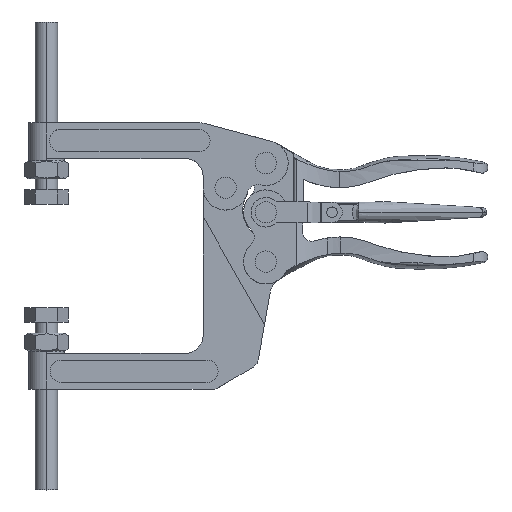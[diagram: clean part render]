
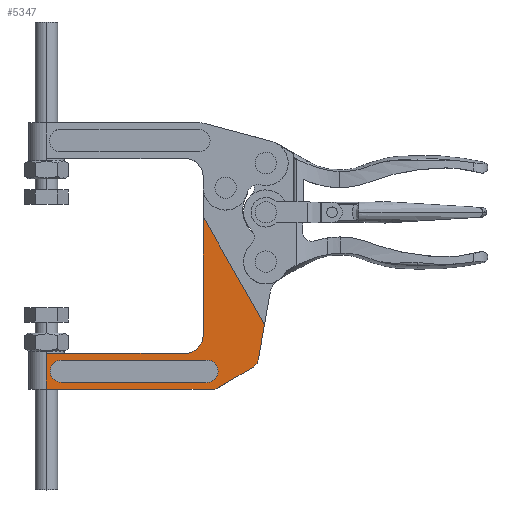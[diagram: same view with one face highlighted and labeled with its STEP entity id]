
A CAD part, top view. The second image highlights one B-rep face of the part: STEP entity #5347.
In plain terms, the highlighted planar face has unit normal (0, 0, 1).
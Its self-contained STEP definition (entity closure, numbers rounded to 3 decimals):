
#809 = EDGE_LOOP ( 'NONE', ( #2437, #2436, #2435, #2434, #2433, #2432, #2431, #2430, #2429, #2428 ) ) ;
#815 = EDGE_LOOP ( 'NONE', ( #2442, #2441, #2440, #2439, #2438 ) ) ;
#1405 = CARTESIAN_POINT ( 'NONE',  ( -5.702, -47.093, 8. ) ) ;
#1414 = CARTESIAN_POINT ( 'NONE',  ( -26.934, -44., 8. ) ) ;
#1417 = CARTESIAN_POINT ( 'NONE',  ( -23.578, -57., 8. ) ) ;
#2369 = VECTOR ( 'NONE', #6834, 1000. ) ;
#2428 = ORIENTED_EDGE ( 'NONE', *, *, #11439, .T. ) ;
#2429 = ORIENTED_EDGE ( 'NONE', *, *, #2768, .T. ) ;
#2430 = ORIENTED_EDGE ( 'NONE', *, *, #2771, .T. ) ;
#2431 = ORIENTED_EDGE ( 'NONE', *, *, #2776, .T. ) ;
#2432 = ORIENTED_EDGE ( 'NONE', *, *, #11438, .T. ) ;
#2433 = ORIENTED_EDGE ( 'NONE', *, *, #2785, .T. ) ;
#2434 = ORIENTED_EDGE ( 'NONE', *, *, #2759, .T. ) ;
#2435 = ORIENTED_EDGE ( 'NONE', *, *, #11437, .T. ) ;
#2436 = ORIENTED_EDGE ( 'NONE', *, *, #11436, .T. ) ;
#2437 = ORIENTED_EDGE ( 'NONE', *, *, #11415, .T. ) ;
#2438 = ORIENTED_EDGE ( 'NONE', *, *, #11429, .F. ) ;
#2439 = ORIENTED_EDGE ( 'NONE', *, *, #11432, .F. ) ;
#2440 = ORIENTED_EDGE ( 'NONE', *, *, #2803, .F. ) ;
#2441 = ORIENTED_EDGE ( 'NONE', *, *, #11433, .F. ) ;
#2442 = ORIENTED_EDGE ( 'NONE', *, *, #11435, .F. ) ;
#2759 = EDGE_CURVE ( 'NONE', #11525, #11572, #6823, .T. ) ;
#2768 = EDGE_CURVE ( 'NONE', #11531, #11590, #6858, .T. ) ;
#2771 = EDGE_CURVE ( 'NONE', #11507, #11531, #6857, .T. ) ;
#2776 = EDGE_CURVE ( 'NONE', #11545, #11507, #6882, .T. ) ;
#2785 = EDGE_CURVE ( 'NONE', #11572, #11504, #6910, .T. ) ;
#2803 = EDGE_CURVE ( 'NONE', #11538, #11587, #9302, .T. ) ;
#3947 = AXIS2_PLACEMENT_3D ( 'NONE', #9022, #9035, #9036 ) ;
#4512 = VECTOR ( 'NONE', #6181, 1000. ) ;
#4516 = CIRCLE ( 'NONE', #4534, 5. ) ;
#4521 = CIRCLE ( 'NONE', #4525, 5.034 ) ;
#4523 = VECTOR ( 'NONE', #6190, 1000. ) ;
#4525 = AXIS2_PLACEMENT_3D ( 'NONE', #6187, #6188, #6189 ) ;
#4531 = CIRCLE ( 'NONE', #4538, 5. ) ;
#4534 = AXIS2_PLACEMENT_3D ( 'NONE', #6196, #6197, #6198 ) ;
#4536 = VECTOR ( 'NONE', #6202, 1000. ) ;
#4538 = AXIS2_PLACEMENT_3D ( 'NONE', #6199, #6200, #6201 ) ;
#4540 = CIRCLE ( 'NONE', #4544, 8. ) ;
#4542 = CIRCLE ( 'NONE', #4549, 5. ) ;
#4544 = AXIS2_PLACEMENT_3D ( 'NONE', #6205, #6206, #6207 ) ;
#4549 = AXIS2_PLACEMENT_3D ( 'NONE', #6208, #6209, #6210 ) ;
#5347 = ADVANCED_FACE ( 'NONE', ( #9028, #9031 ), #9032, .T. ) ;
#6135 = LINE ( 'NONE', #6136, #13667 ) ;
#6136 = CARTESIAN_POINT ( 'NONE',  ( -21.002, -56.286, 8. ) ) ;
#6137 = DIRECTION ( 'NONE',  ( 0.857, 0.515, 0. ) ) ;
#6178 = LINE ( 'NONE', #6180, #4512 ) ;
#6179 = CARTESIAN_POINT ( 'NONE',  ( -26.934, -44., 8. ) ) ;
#6180 = CARTESIAN_POINT ( 'NONE',  ( -92.839, -54., 8. ) ) ;
#6181 = DIRECTION ( 'NONE',  ( 1., 0., 0. ) ) ;
#6183 = LINE ( 'NONE', #6179, #4523 ) ;
#6187 = CARTESIAN_POINT ( 'NONE',  ( -26.347, -49., 8. ) ) ;
#6188 = DIRECTION ( 'NONE',  ( 0., 0., 1. ) ) ;
#6189 = DIRECTION ( 'NONE',  ( 1., 0., 0. ) ) ;
#6190 = DIRECTION ( 'NONE',  ( -1., 0., 0. ) ) ;
#6194 = LINE ( 'NONE', #6195, #4536 ) ;
#6195 = CARTESIAN_POINT ( 'NONE',  ( -0.617, -28.156, 8. ) ) ;
#6196 = CARTESIAN_POINT ( 'NONE',  ( -91.279, -49., 8. ) ) ;
#6197 = DIRECTION ( 'NONE',  ( 0., 0., 1. ) ) ;
#6198 = DIRECTION ( 'NONE',  ( 1., 0., 0. ) ) ;
#6199 = CARTESIAN_POINT ( 'NONE',  ( -8.277, -42.807, 8. ) ) ;
#6200 = DIRECTION ( 'NONE',  ( 0., 0., 1. ) ) ;
#6201 = DIRECTION ( 'NONE',  ( 1., 0., 0. ) ) ;
#6202 = DIRECTION ( 'NONE',  ( 0.174, 0.985, 0. ) ) ;
#6205 = CARTESIAN_POINT ( 'NONE',  ( -36., -33., 8. ) ) ;
#6206 = DIRECTION ( 'NONE',  ( 0., 0., -1. ) ) ;
#6207 = DIRECTION ( 'NONE',  ( 1., 0., 0. ) ) ;
#6208 = CARTESIAN_POINT ( 'NONE',  ( -23.578, -52., 8. ) ) ;
#6209 = DIRECTION ( 'NONE',  ( 0., 0., 1. ) ) ;
#6210 = DIRECTION ( 'NONE',  ( 1., 0., 0. ) ) ;
#6299 = CARTESIAN_POINT ( 'NONE',  ( -91.339, -44., 8. ) ) ;
#6325 = CARTESIAN_POINT ( 'NONE',  ( -21.002, -56.286, 8. ) ) ;
#6329 = CARTESIAN_POINT ( 'NONE',  ( -28., -33., 8. ) ) ;
#6332 = CARTESIAN_POINT ( 'NONE',  ( -98., -41., 8. ) ) ;
#6335 = CARTESIAN_POINT ( 'NONE',  ( -3.353, -43.675, 8. ) ) ;
#6350 = CARTESIAN_POINT ( 'NONE',  ( -0.617, -28.156, 8. ) ) ;
#6356 = CARTESIAN_POINT ( 'NONE',  ( -98., -57., 8. ) ) ;
#6357 = CARTESIAN_POINT ( 'NONE',  ( -91.339, -54., 8. ) ) ;
#6363 = CARTESIAN_POINT ( 'NONE',  ( -21.313, -49., 8. ) ) ;
#6365 = CARTESIAN_POINT ( 'NONE',  ( -26.934, -54., 8. ) ) ;
#6370 = CARTESIAN_POINT ( 'NONE',  ( -36., -41., 8. ) ) ;
#6397 = CARTESIAN_POINT ( 'NONE',  ( -28., 20., 8. ) ) ;
#6823 = LINE ( 'NONE', #6832, #2369 ) ;
#6832 = CARTESIAN_POINT ( 'NONE',  ( -28., 20., 8. ) ) ;
#6834 = DIRECTION ( 'NONE',  ( -0.494, 0.869, 0. ) ) ;
#6851 = CARTESIAN_POINT ( 'NONE',  ( -23.578, -57., 8. ) ) ;
#6857 = LINE ( 'NONE', #6869, #9344 ) ;
#6858 = LINE ( 'NONE', #6851, #9342 ) ;
#6862 = DIRECTION ( 'NONE',  ( 1., 0., 0. ) ) ;
#6869 = CARTESIAN_POINT ( 'NONE',  ( -98., -57., 8. ) ) ;
#6870 = DIRECTION ( 'NONE',  ( 0., -1., 0. ) ) ;
#6882 = LINE ( 'NONE', #6883, #9350 ) ;
#6883 = CARTESIAN_POINT ( 'NONE',  ( -99.5, -41., 8. ) ) ;
#6884 = DIRECTION ( 'NONE',  ( -1., 0., 0. ) ) ;
#6910 = LINE ( 'NONE', #6911, #9303 ) ;
#6911 = CARTESIAN_POINT ( 'NONE',  ( -28., -57., 8. ) ) ;
#6912 = DIRECTION ( 'NONE',  ( 0., -1., 0. ) ) ;
#6965 = CARTESIAN_POINT ( 'NONE',  ( -26.347, -49., 8. ) ) ;
#6966 = DIRECTION ( 'NONE',  ( 0., 0., 1. ) ) ;
#6967 = DIRECTION ( 'NONE',  ( 1., 0., 0. ) ) ;
#9022 = CARTESIAN_POINT ( 'NONE',  ( -99.5, -57., 8. ) ) ;
#9028 = FACE_BOUND ( 'NONE', #815, .T. ) ;
#9031 = FACE_OUTER_BOUND ( 'NONE', #809, .T. ) ;
#9032 = PLANE ( 'NONE',  #3947 ) ;
#9035 = DIRECTION ( 'NONE',  ( 0., 0., 1. ) ) ;
#9036 = DIRECTION ( 'NONE',  ( 1., 0., 0. ) ) ;
#9302 = CIRCLE ( 'NONE', #9318, 5.034 ) ;
#9303 = VECTOR ( 'NONE', #6912, 1000. ) ;
#9318 = AXIS2_PLACEMENT_3D ( 'NONE', #6965, #6966, #6967 ) ;
#9342 = VECTOR ( 'NONE', #6862, 1000. ) ;
#9344 = VECTOR ( 'NONE', #6870, 1000. ) ;
#9350 = VECTOR ( 'NONE', #6884, 1000. ) ;
#11415 = EDGE_CURVE ( 'NONE', #11500, #11578, #6135, .T. ) ;
#11429 = EDGE_CURVE ( 'NONE', #11532, #11540, #6178, .T. ) ;
#11432 = EDGE_CURVE ( 'NONE', #11540, #11538, #4521, .T. ) ;
#11433 = EDGE_CURVE ( 'NONE', #11587, #11483, #6183, .T. ) ;
#11435 = EDGE_CURVE ( 'NONE', #11483, #11532, #4516, .T. ) ;
#11436 = EDGE_CURVE ( 'NONE', #11578, #11510, #4531, .T. ) ;
#11437 = EDGE_CURVE ( 'NONE', #11510, #11525, #6194, .T. ) ;
#11438 = EDGE_CURVE ( 'NONE', #11504, #11545, #4540, .T. ) ;
#11439 = EDGE_CURVE ( 'NONE', #11590, #11500, #4542, .T. ) ;
#11483 = VERTEX_POINT ( 'NONE', #6299 ) ;
#11500 = VERTEX_POINT ( 'NONE', #6325 ) ;
#11504 = VERTEX_POINT ( 'NONE', #6329 ) ;
#11507 = VERTEX_POINT ( 'NONE', #6332 ) ;
#11510 = VERTEX_POINT ( 'NONE', #6335 ) ;
#11525 = VERTEX_POINT ( 'NONE', #6350 ) ;
#11531 = VERTEX_POINT ( 'NONE', #6356 ) ;
#11532 = VERTEX_POINT ( 'NONE', #6357 ) ;
#11538 = VERTEX_POINT ( 'NONE', #6363 ) ;
#11540 = VERTEX_POINT ( 'NONE', #6365 ) ;
#11545 = VERTEX_POINT ( 'NONE', #6370 ) ;
#11572 = VERTEX_POINT ( 'NONE', #6397 ) ;
#11578 = VERTEX_POINT ( 'NONE', #1405 ) ;
#11587 = VERTEX_POINT ( 'NONE', #1414 ) ;
#11590 = VERTEX_POINT ( 'NONE', #1417 ) ;
#13667 = VECTOR ( 'NONE', #6137, 1000. ) ;
